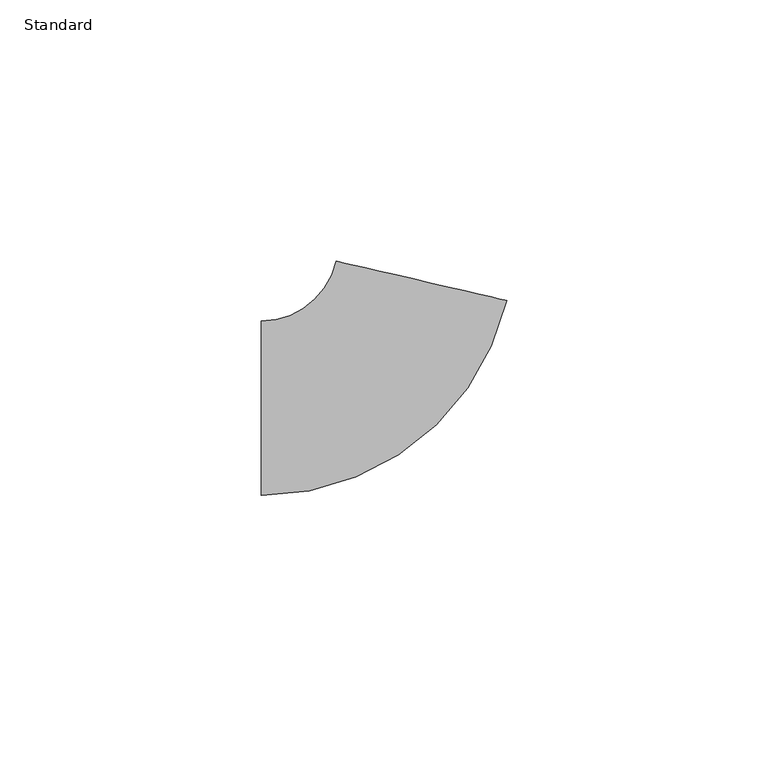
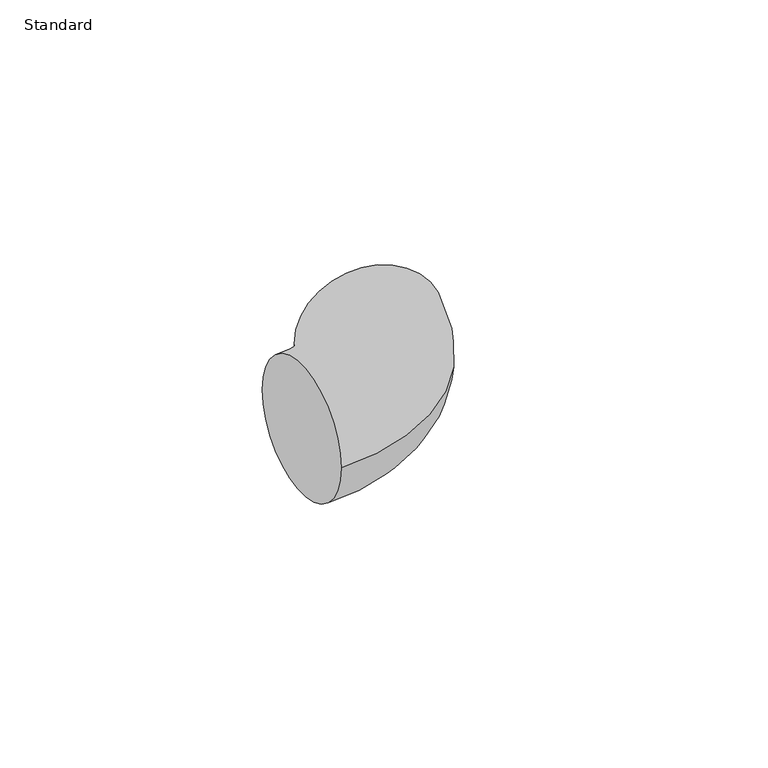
"""IFC4 building model written with IfcOpenShell, lengths in millimetres: pipe fitting geometry, Coude - Générique1 : Standard."""

from ifc_helpers import new_model, si_unit, point, frame, origin, place, context, project, spatial, circle_curve, ellipse_curve, trimmed, source, transform, mapped, element, save
from ifc_brep_helpers import plane_surface, revolved_surface, advanced_brep


def standard_a326d35e(model_context):
    return source(origin(), model_context, "Body", "AdvancedBrep", [
        advanced_brep(
        [(-25.0, -16.7, 0.0), (-25.0, 16.7, 0.0), (21.8971109, 20.6011294, 0.0), (-10.6463552, 28.1166342, 0.0)],
        [
            (0, 1, circle_curve(frame((-25.0, 0.0, 0.0), z_axis=(-1.0, 0.0, 0.0), x_axis=(0.0, 1.0, 0.0)), 16.7)),
            (1, 0, circle_curve(frame((-25.0, 0.0, 0.0), z_axis=(-1.0, 0.0, 0.0), x_axis=(0.0, 1.0, 0.0)), 16.7)),
            (2, 3, circle_curve(frame((5.6253778, 24.3588818, 0.0), z_axis=(0.225015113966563, 0.9743552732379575, 0.0), x_axis=(-0.9743552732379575, 0.225015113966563, 0.0)), 16.7)),
            (3, 2, circle_curve(frame((5.6253778, 24.3588818, 0.0), z_axis=(0.225015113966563, 0.9743552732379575, 0.0), x_axis=(-0.9743552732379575, 0.225015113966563, 0.0)), 16.7)),
            (3, 1, circle_curve(frame((-25.0, 31.4314282, 0.0), z_axis=(0.0, 0.0, -1.0), x_axis=(0.0, -1.0, 0.0)), 14.7314282)),
            (0, 2, circle_curve(frame((-25.0, 31.4314282, 0.0), z_axis=(0.0, 0.0, 1.0), x_axis=(0.0, -1.0, 0.0)), 48.1314282)),
        ],
        [
            plane_surface(frame((-25.0, 0.0, 0.0), z_axis=(-1.0, 0.0, 0.0), x_axis=(0.0, 0.0, 1.0))),
            plane_surface(frame((5.6253778, 24.3588818, 0.0), z_axis=(0.22501511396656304, 0.9743552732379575, 0.0), x_axis=(0.0, 0.0, 1.0))),
            revolved_surface(trimmed(ellipse_curve(frame((-25.0, 0.0, 0.0), z_axis=(-1.0, 0.0, 0.0), x_axis=(0.0, 1.0, 0.0)), 16.7, 16.7), [point((-25.0, -16.7, 0.0))], [point((-25.0, 16.7, 0.0))], True, "CARTESIAN"), (-25.0, 31.4314282, 0.0), (0.0, 0.0, 1.0)),
            revolved_surface(trimmed(ellipse_curve(frame((-25.0, 0.0, 0.0), z_axis=(-1.0, 0.0, 0.0), x_axis=(0.0, 1.0, 0.0)), 16.7, 16.7), [point((-25.0, 16.7, 0.0))], [point((-25.0, -16.7, 0.0))], True, "CARTESIAN"), (-25.0, 31.4314282, 0.0), (0.0, 0.0, 1.0)),
        ],
        [
            (0, [[1, 2]]),
            (1, [[3, 4]]),
            (2, [[5, -1, 6, -4]]),
            (3, [[-6, -2, -5, -3]]),
        ],
    ),
    ])


if __name__ == "__main__":
    model = new_model("IFC4")
    model_context = context("Model", 3, world=origin())
    ifc_project = project(units=[si_unit("LENGTHUNIT", "METRE", prefix="MILLI")], contexts=[model_context])
    site = spatial("IfcSite", under=ifc_project)
    building = spatial("IfcBuilding", under=site)
    placement = place(None, origin())
    standard_shape = standard_a326d35e(model_context)
    element("IfcPipeFitting", 1, ObjectType="Coude - Générique1 : Standard", at=placement, inside=building, context=model_context, shape_type="MappedRepresentation", body=[
        mapped(standard_shape, transform((0.0, 0.0, 0.0), x_axis=(1.0, 0.0, 0.0), y_axis=(0.0, 1.0, 0.0), z_axis=(0.0, 0.0, 1.0))),
    ])
    save(model, "model.ifc")
